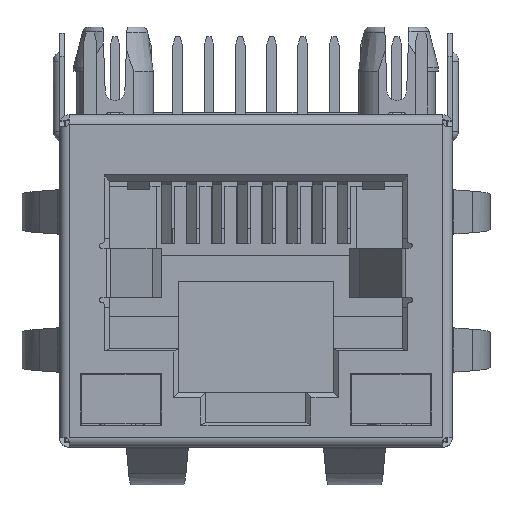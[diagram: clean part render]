
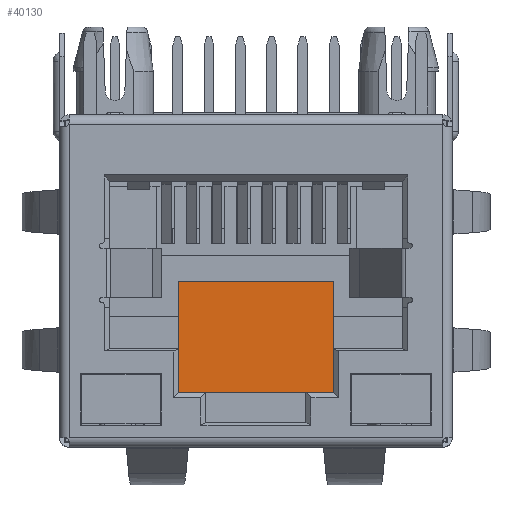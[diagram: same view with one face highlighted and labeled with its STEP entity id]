
A CAD part, front view. The second image highlights one B-rep face of the part: STEP entity #40130.
In plain terms, the highlighted planar face has unit normal (0, -1, 0).
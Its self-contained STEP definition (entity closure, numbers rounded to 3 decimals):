
#35069=DIRECTION('',(0.,0.,-1.));
#35070=VECTOR('',#35069,4.5);
#35071=CARTESIAN_POINT('',(3.15,10.35,6.72));
#35072=LINE('',#35071,#35070);
#35073=DIRECTION('',(-1.,0.,0.));
#35074=VECTOR('',#35073,6.3);
#35075=CARTESIAN_POINT('',(3.15,10.35,2.22));
#35076=LINE('',#35075,#35074);
#35077=DIRECTION('',(0.,0.,1.));
#35078=VECTOR('',#35077,4.5);
#35079=CARTESIAN_POINT('',(-3.15,10.35,2.22));
#35080=LINE('',#35079,#35078);
#35093=DIRECTION('',(-1.,0.,0.));
#35094=VECTOR('',#35093,6.3);
#35095=CARTESIAN_POINT('',(3.15,10.35,6.72));
#35096=LINE('',#35095,#35094);
#37103=CARTESIAN_POINT('',(3.15,10.35,2.22));
#37104=VERTEX_POINT('',#37103);
#37105=CARTESIAN_POINT('',(-3.15,10.35,2.22));
#37106=VERTEX_POINT('',#37105);
#37107=CARTESIAN_POINT('',(3.15,10.35,6.72));
#37108=VERTEX_POINT('',#37107);
#37109=CARTESIAN_POINT('',(-3.15,10.35,6.72));
#37110=VERTEX_POINT('',#37109);
#40118=CARTESIAN_POINT('',(0.,10.35,4.47));
#40119=DIRECTION('',(0.,1.,0.));
#40120=DIRECTION('',(1.,0.,0.));
#40121=AXIS2_PLACEMENT_3D('',#40118,#40119,#40120);
#40122=PLANE('',#40121);
#40124=ORIENTED_EDGE('',*,*,#40123,.F.);
#40125=ORIENTED_EDGE('',*,*,#40074,.T.);
#40126=ORIENTED_EDGE('',*,*,#40113,.T.);
#40127=ORIENTED_EDGE('',*,*,#39408,.T.);
#40128=EDGE_LOOP('',(#40124,#40125,#40126,#40127));
#40129=FACE_OUTER_BOUND('',#40128,.F.);
#40130=ADVANCED_FACE('',(#40129),#40122,.F.);
#39408=EDGE_CURVE('',#37106,#37110,#35080,.T.);
#40074=EDGE_CURVE('',#37108,#37104,#35072,.T.);
#40113=EDGE_CURVE('',#37104,#37106,#35076,.T.);
#40123=EDGE_CURVE('',#37108,#37110,#35096,.T.);
